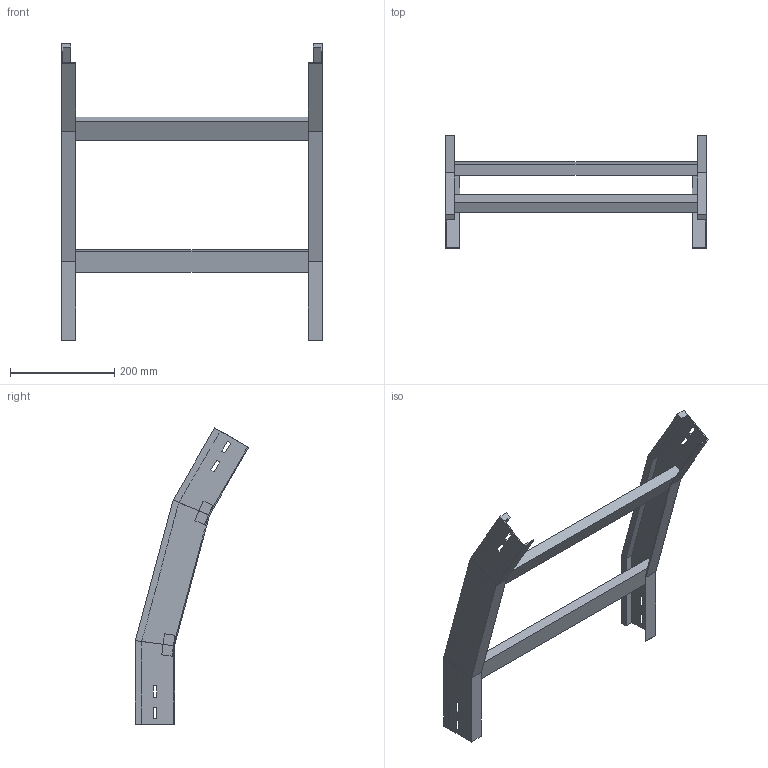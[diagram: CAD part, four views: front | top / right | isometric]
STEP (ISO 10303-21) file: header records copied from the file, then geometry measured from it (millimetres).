
FILE_DESCRIPTION (( 'STEP AP214' ), '1' );
FILE_NAME ('35B5C500.step', '2025-02-21T14:49:23', ( '' ), ( '' ), 'SwSTEP 2.0', 'SolidWorks 2023', '' );
FILE_SCHEMA (( 'AUTOMOTIVE_DESIGN' ));
Length unit declared in the file: millimetre
Products named in the file (3): 35B5C500; LONGH.DISCESA_30°_H75_R500; TRAVERSINO_500
Assembly tree (5 placements, depth 2):
  35B5C500
    LONGH.DISCESA_30°_H75_R500  x2
    TRAVERSINO_500  x3
Bounding box: 500 x 217.03 x 567.58 mm (x, y, z)
Volume: 1661002.1 mm3; surface area: 457248.5 mm2
Topology: 5 solids, 5 shells, 102 faces, 244 edges, 152 vertices
Faces by surface type: plane 102
Entity records: 1480 total; most frequent: CARTESIAN_POINT 244, ORIENTED_EDGE 232, DIRECTION 228, LINE 116, VECTOR 116, EDGE_CURVE 116, VERTEX_POINT 72, EDGE_LOOP 56
